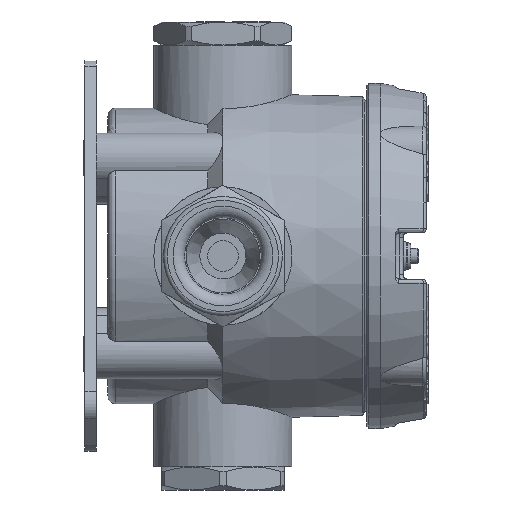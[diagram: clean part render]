
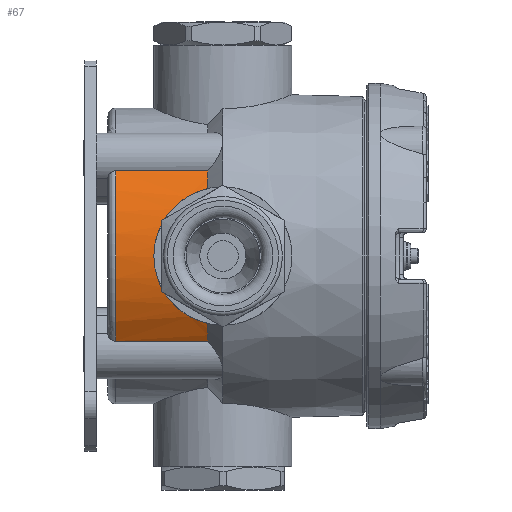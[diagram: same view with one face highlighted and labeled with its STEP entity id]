
A CAD part, left-side view. The second image highlights one B-rep face of the part: STEP entity #67.
In plain terms, the highlighted cylindrical face has radius 38.5 mm (diameter 77 mm), a partial arc.
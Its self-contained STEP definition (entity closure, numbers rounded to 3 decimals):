
#67=ADVANCED_FACE('',(#863),#865,.T.);
#863=FACE_BOUND('',#864,.T.);
#864=EDGE_LOOP('',(#8222,#8223,#8224,#8225,#8226,#8227));
#865=CYLINDRICAL_SURFACE('',#866,38.5);
#866=AXIS2_PLACEMENT_3D('',#867,#868,#869);
#867=CARTESIAN_POINT('',(0.,-20.,0.));
#868=DIRECTION('',(0.,1.,0.));
#869=DIRECTION('',(0.,0.,-1.));
#8222=ORIENTED_EDGE('',*,*,#18385,.F.);
#8223=ORIENTED_EDGE('',*,*,#18386,.F.);
#8224=ORIENTED_EDGE('',*,*,#18387,.F.);
#8225=ORIENTED_EDGE('',*,*,#18388,.T.);
#8226=ORIENTED_EDGE('',*,*,#18375,.F.);
#8227=ORIENTED_EDGE('',*,*,#18389,.T.);
#18375=EDGE_CURVE('',#24293,#24294,#24295,.T.);
#18385=EDGE_CURVE('',#24313,#24314,#24315,.F.);
#18386=EDGE_CURVE('',#24316,#24313,#24317,.T.);
#18387=EDGE_CURVE('',#24318,#24316,#24319,.T.);
#18388=EDGE_CURVE('',#24318,#24294,#24320,.T.);
#18389=EDGE_CURVE('',#24293,#24314,#24321,.T.);
#24293=VERTEX_POINT('',#29031);
#24294=VERTEX_POINT('',#29032);
#24295=B_SPLINE_CURVE_WITH_KNOTS('',3,
(#29033,#29034,#29035,#29036,#29037,#29038,#29039,#29040,#29041,#29042,#29043,#29044,
#29045,#29046,#29047,#29048,#29049,#29050,#29051,#29052,#29053,#29054,#29055,#29056,
#29057,#29058,#29059,#29060,#29061,#29062,#29063,#29064,#29065,#29066,#29067,#29068,
#29069,#29070,#29071,#29072,#29073,#29074,#29075,#29076,#29077,#29078,#29079,#29080,
#29081,#29082,#29083,#29084,#29085,#29086,#29087,#29088,#29089,#29090,#29091,#29092,
#29093,#29094,#29095,#29096,#29097,#29098,#29099,#29100,#29101,#29102,#29103,#29104,
#29105,#29106,#29107,#29108),
.UNSPECIFIED.,.F.,.F.,
(4,1,1,1,1,1,1,1,1,1,1,1,1,1,1,1,1,1,1,1,1,1,1,1,1,1,1,1,1,1,1,1,1,1,1,1,1,1,1,1,
1,1,1,1,1,1,1,1,1,1,1,1,1,1,1,1,1,1,1,1,1,1,1,1,1,1,1,1,1,1,1,1,1,4),
(0.,0.01,0.02,0.031,0.041,
0.051,0.062,0.072,0.083,0.093,
0.104,0.114,0.125,0.135,0.146,
0.156,0.167,0.177,0.188,0.198,
0.208,0.218,0.232,0.248,0.269,
0.293,0.323,0.354,0.382,0.402,
0.415,0.426,0.438,0.45,0.458,
0.467,0.479,0.491,0.5,0.502,
0.514,0.528,0.542,0.552,0.56,
0.568,0.579,0.597,0.623,0.655,
0.689,0.72,0.744,0.764,0.778,
0.79,0.802,0.814,0.826,0.835,
0.844,0.854,0.862,0.874,0.888,
0.905,0.922,0.94,0.959,0.974,
0.985,0.99,0.996,1.),
.UNSPECIFIED.);
#24313=VERTEX_POINT('',#29539);
#24314=VERTEX_POINT('',#29540);
#24315=LINE('',#29541,#29542);
#24316=VERTEX_POINT('',#29544);
#24317=CIRCLE('',#29545,38.5);
#24318=VERTEX_POINT('',#29549);
#24319=LINE('',#29550,#29551);
#24320=CIRCLE('',#29553,38.5);
#24321=CIRCLE('',#29557,38.5);
#29031=CARTESIAN_POINT('',(-34.267,-20.,17.55));
#29032=CARTESIAN_POINT('',(-34.267,-20.,-17.55));
#29033=CARTESIAN_POINT('',(-34.267,-20.,17.55));
#29034=CARTESIAN_POINT('',(-34.286,-19.837,17.513));
#29035=CARTESIAN_POINT('',(-34.327,-19.512,17.434));
#29036=CARTESIAN_POINT('',(-34.393,-19.028,17.302));
#29037=CARTESIAN_POINT('',(-34.466,-18.548,17.157));
#29038=CARTESIAN_POINT('',(-34.545,-18.071,16.998));
#29039=CARTESIAN_POINT('',(-34.629,-17.597,16.825));
#29040=CARTESIAN_POINT('',(-34.719,-17.128,16.639));
#29041=CARTESIAN_POINT('',(-34.814,-16.663,16.439));
#29042=CARTESIAN_POINT('',(-34.914,-16.203,16.226));
#29043=CARTESIAN_POINT('',(-35.018,-15.749,16.));
#29044=CARTESIAN_POINT('',(-35.126,-15.301,15.761));
#29045=CARTESIAN_POINT('',(-35.238,-14.86,15.509));
#29046=CARTESIAN_POINT('',(-35.353,-14.426,15.246));
#29047=CARTESIAN_POINT('',(-35.471,-14.001,14.97));
#29048=CARTESIAN_POINT('',(-35.59,-13.585,14.684));
#29049=CARTESIAN_POINT('',(-35.711,-13.179,14.387));
#29050=CARTESIAN_POINT('',(-35.834,-12.782,14.079));
#29051=CARTESIAN_POINT('',(-35.957,-12.395,13.763));
#29052=CARTESIAN_POINT('',(-36.079,-12.02,13.438));
#29053=CARTESIAN_POINT('',(-36.201,-11.658,13.106));
#29054=CARTESIAN_POINT('',(-36.322,-11.308,12.766));
#29055=CARTESIAN_POINT('',(-36.455,-10.934,12.384));
#29056=CARTESIAN_POINT('',(-36.61,-10.505,11.919));
#29057=CARTESIAN_POINT('',(-36.806,-9.981,11.302));
#29058=CARTESIAN_POINT('',(-37.04,-9.377,10.516));
#29059=CARTESIAN_POINT('',(-37.311,-8.703,9.517));
#29060=CARTESIAN_POINT('',(-37.595,-8.024,8.334));
#29061=CARTESIAN_POINT('',(-37.859,-7.413,7.039));
#29062=CARTESIAN_POINT('',(-38.06,-6.961,5.842));
#29063=CARTESIAN_POINT('',(-38.191,-6.67,4.887));
#29064=CARTESIAN_POINT('',(-38.273,-6.49,4.184));
#29065=CARTESIAN_POINT('',(-38.332,-6.362,3.605));
#29066=CARTESIAN_POINT('',(-38.381,-6.256,3.046));
#29067=CARTESIAN_POINT('',(-38.418,-6.176,2.526));
#29068=CARTESIAN_POINT('',(-38.446,-6.115,2.048));
#29069=CARTESIAN_POINT('',(-38.469,-6.066,1.567));
#29070=CARTESIAN_POINT('',(-38.488,-6.027,1.036));
#29071=CARTESIAN_POINT('',(-38.498,-6.004,0.498));
#29072=CARTESIAN_POINT('',(-38.5,-5.999,0.113));
#29073=CARTESIAN_POINT('',(-38.5,-6.001,-0.267));
#29074=CARTESIAN_POINT('',(-38.495,-6.011,-0.725));
#29075=CARTESIAN_POINT('',(-38.478,-6.048,-1.368));
#29076=CARTESIAN_POINT('',(-38.45,-6.108,-1.998));
#29077=CARTESIAN_POINT('',(-38.418,-6.176,-2.522));
#29078=CARTESIAN_POINT('',(-38.388,-6.241,-2.946));
#29079=CARTESIAN_POINT('',(-38.352,-6.318,-3.379));
#29080=CARTESIAN_POINT('',(-38.297,-6.437,-3.966));
#29081=CARTESIAN_POINT('',(-38.199,-6.652,-4.84));
#29082=CARTESIAN_POINT('',(-38.034,-7.018,-6.024));
#29083=CARTESIAN_POINT('',(-37.788,-7.573,-7.418));
#29084=CARTESIAN_POINT('',(-37.485,-8.282,-8.819));
#29085=CARTESIAN_POINT('',(-37.175,-9.038,-10.036));
#29086=CARTESIAN_POINT('',(-36.897,-9.742,-11.004));
#29087=CARTESIAN_POINT('',(-36.673,-10.334,-11.725));
#29088=CARTESIAN_POINT('',(-36.494,-10.825,-12.27));
#29089=CARTESIAN_POINT('',(-36.343,-11.249,-12.709));
#29090=CARTESIAN_POINT('',(-36.201,-11.659,-13.108));
#29091=CARTESIAN_POINT('',(-36.058,-12.086,-13.497));
#29092=CARTESIAN_POINT('',(-35.926,-12.49,-13.842));
#29093=CARTESIAN_POINT('',(-35.807,-12.867,-14.147));
#29094=CARTESIAN_POINT('',(-35.701,-13.213,-14.412));
#29095=CARTESIAN_POINT('',(-35.597,-13.563,-14.667));
#29096=CARTESIAN_POINT('',(-35.485,-13.952,-14.937));
#29097=CARTESIAN_POINT('',(-35.355,-14.417,-15.241));
#29098=CARTESIAN_POINT('',(-35.202,-14.997,-15.592));
#29099=CARTESIAN_POINT('',(-35.036,-15.666,-15.961));
#29100=CARTESIAN_POINT('',(-34.866,-16.413,-16.33));
#29101=CARTESIAN_POINT('',(-34.699,-17.218,-16.682));
#29102=CARTESIAN_POINT('',(-34.552,-18.015,-16.983));
#29103=CARTESIAN_POINT('',(-34.441,-18.705,-17.208));
#29104=CARTESIAN_POINT('',(-34.37,-19.196,-17.349));
#29105=CARTESIAN_POINT('',(-34.325,-19.534,-17.438));
#29106=CARTESIAN_POINT('',(-34.294,-19.777,-17.498));
#29107=CARTESIAN_POINT('',(-34.276,-19.929,-17.534));
#29108=CARTESIAN_POINT('',(-34.267,-20.,-17.55));
#29539=CARTESIAN_POINT('',(-31.465,4.,22.185));
#29540=CARTESIAN_POINT('',(-31.465,-20.,22.185));
#29541=CARTESIAN_POINT('',(-31.465,-20.,22.185));
#29542=VECTOR('',#29543,1.);
#29543=DIRECTION('',(0.,1.,0.));
#29544=CARTESIAN_POINT('',(-31.465,4.,-22.185));
#29545=AXIS2_PLACEMENT_3D('',#29546,#29547,#29548);
#29546=CARTESIAN_POINT('',(0.,4.,0.));
#29547=DIRECTION('',(0.,1.,0.));
#29548=DIRECTION('',(-0.817,0.,-0.576));
#29549=CARTESIAN_POINT('',(-31.465,-20.,-22.185));
#29550=CARTESIAN_POINT('',(-31.465,-20.,-22.185));
#29551=VECTOR('',#29552,1.);
#29552=DIRECTION('',(0.,1.,0.));
#29553=AXIS2_PLACEMENT_3D('',#29554,#29555,#29556);
#29554=CARTESIAN_POINT('',(0.,-20.,0.));
#29555=DIRECTION('',(0.,1.,0.));
#29556=DIRECTION('',(-0.817,0.,-0.576));
#29557=AXIS2_PLACEMENT_3D('',#29558,#29559,#29560);
#29558=CARTESIAN_POINT('',(0.,-20.,0.));
#29559=DIRECTION('',(0.,1.,0.));
#29560=DIRECTION('',(-0.89,0.,0.456));
